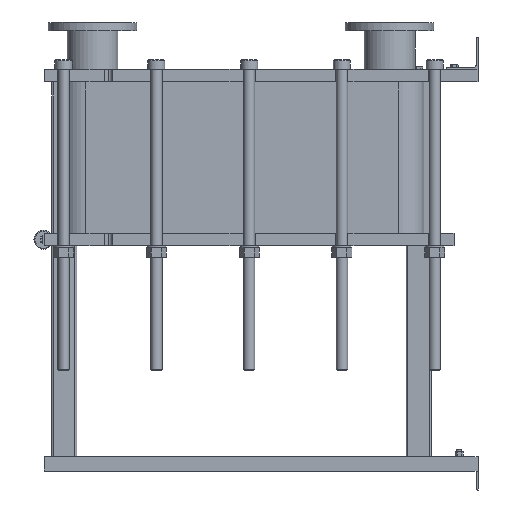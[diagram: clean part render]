
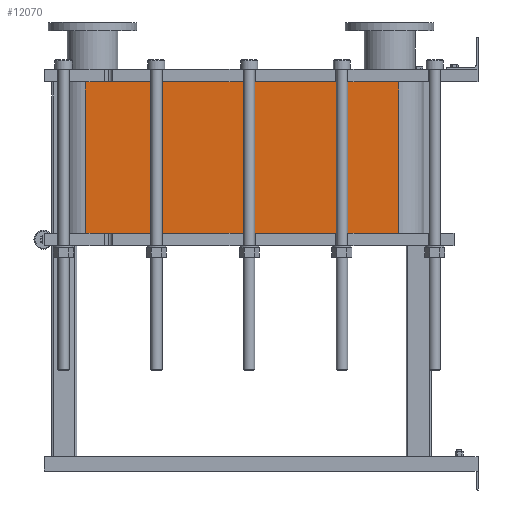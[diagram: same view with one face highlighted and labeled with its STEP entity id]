
A CAD part, left-side view. The second image highlights one B-rep face of the part: STEP entity #12070.
In plain terms, the highlighted planar face has unit normal (-1, 0, 0).
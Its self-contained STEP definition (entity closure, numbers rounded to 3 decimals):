
#1064=LINE('',#21140,#2164);
#1065=LINE('',#21144,#2165);
#1066=LINE('',#21146,#2166);
#1067=LINE('',#21147,#2167);
#2164=VECTOR('',#15790,10.);
#2165=VECTOR('',#15795,10.);
#2166=VECTOR('',#15796,10.);
#2167=VECTOR('',#15797,10.);
#3304=FACE_OUTER_BOUND('',#4091,.T.);
#4091=EDGE_LOOP('',(#9793,#9794,#9795,#9796));
#5677=VERTEX_POINT('',#21137);
#5678=VERTEX_POINT('',#21139);
#5679=VERTEX_POINT('',#21143);
#5680=VERTEX_POINT('',#21145);
#7118=EDGE_CURVE('',#5678,#5677,#1064,.T.);
#7120=EDGE_CURVE('',#5677,#5679,#1065,.T.);
#7121=EDGE_CURVE('',#5680,#5679,#1066,.T.);
#7122=EDGE_CURVE('',#5680,#5678,#1067,.T.);
#9793=ORIENTED_EDGE('',*,*,#7120,.T.);
#9794=ORIENTED_EDGE('',*,*,#7121,.F.);
#9795=ORIENTED_EDGE('',*,*,#7122,.T.);
#9796=ORIENTED_EDGE('',*,*,#7118,.T.);
#11441=PLANE('',#13191);
#12070=ADVANCED_FACE('',(#3304),#11441,.T.);
#13191=AXIS2_PLACEMENT_3D('',#21142,#15793,#15794);
#15790=DIRECTION('',(0.,0.,-1.));
#15793=DIRECTION('center_axis',(-1.,0.,0.));
#15794=DIRECTION('ref_axis',(0.,1.,0.));
#15795=DIRECTION('',(0.,-1.,0.));
#15796=DIRECTION('',(0.,0.,-1.));
#15797=DIRECTION('',(0.,1.,0.));
#21137=CARTESIAN_POINT('',(-248.152,1243.818,-479.55));
#21139=CARTESIAN_POINT('',(-248.152,1243.818,0.));
#21140=CARTESIAN_POINT('',(-248.152,1243.818,0.));
#21142=CARTESIAN_POINT('Origin',(-248.152,251.818,0.));
#21143=CARTESIAN_POINT('',(-248.152,251.818,-479.55));
#21144=CARTESIAN_POINT('',(-248.152,499.818,-479.55));
#21145=CARTESIAN_POINT('',(-248.152,251.818,0.));
#21146=CARTESIAN_POINT('',(-248.152,251.818,0.));
#21147=CARTESIAN_POINT('',(-248.152,251.818,0.));
